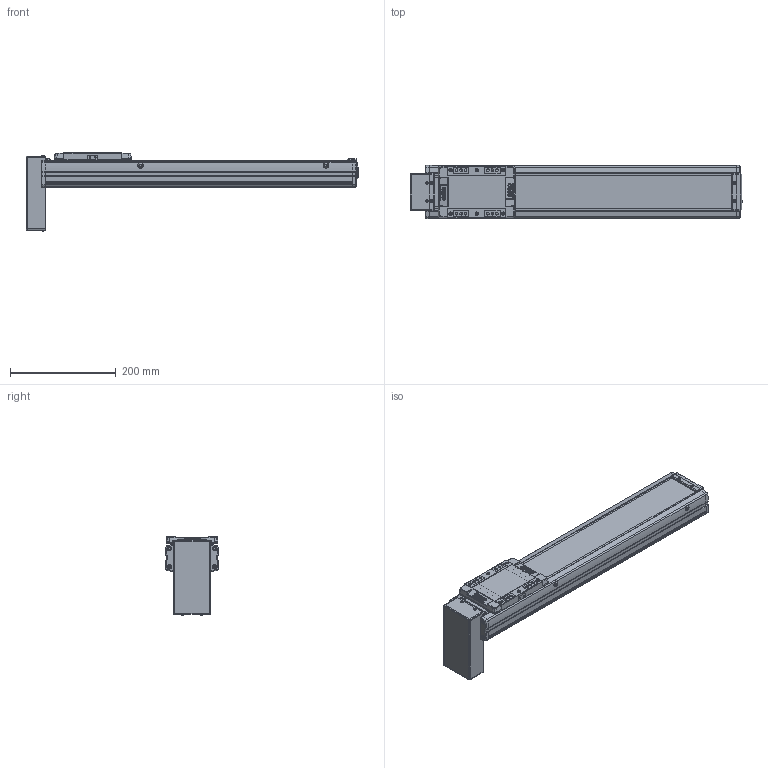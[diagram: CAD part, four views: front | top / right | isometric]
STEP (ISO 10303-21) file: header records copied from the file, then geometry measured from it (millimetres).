
FILE_DESCRIPTION(('STEP AP214'),'1');
FILE_NAME('Z:/Web/3D/SAN100/SAN100 양산용 (STEP)/SAN100ㅁㅁ-400PB.stp','2013-04-25T09:15:59',(' '),(' '),'Spatial InterOp 3D',' ',' ');
FILE_SCHEMA(('automotive_design'));
Length unit declared in the file: millimetre
Products named in the file (37): SUS COVER; SFX-SAN100; RRCV-SAN100; 스크루 : Round - M4.0 x 10.0; M3.0 x 6.0; 스크루 : Round - M3.0 x 6.0; FRBL-SAN100; SLBL-SAN100; SLCV-SAN100; 스크루 : Countersunk - M3.0 x 6.0; BASE; 스크루 : Round - M5.0 x 6.0; BTCV-SAN100; FRCV-SAN100
Bounding box: 626.5 x 100 x 148.36 mm (x, y, z)
Volume: 2006627.2 mm3; surface area: 467117.6 mm2
Topology: 37 solids, 40 shells, 2024 faces, 5250 edges, 3379 vertices
Faces by surface type: plane 1011, cylinder 733, cone 186, sphere 52, torus 30, bspline 12
Entity records: 79436 total; most frequent: CARTESIAN_POINT 11768, DIRECTION 11147, ORIENTED_EDGE 10336, EDGE_CURVE 5168, AXIS2_PLACEMENT_3D 4019, VERTEX_POINT 3379, LINE 3109, VECTOR 3109
